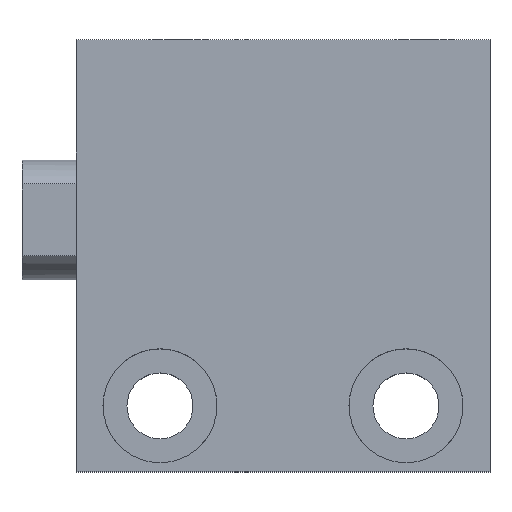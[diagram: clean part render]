
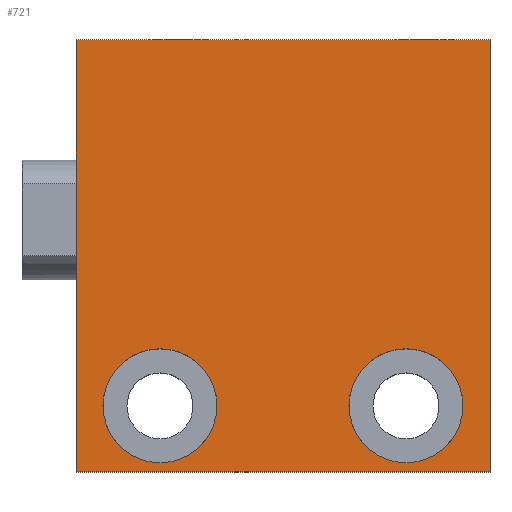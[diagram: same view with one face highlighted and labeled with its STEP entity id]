
A CAD part, top view. The second image highlights one B-rep face of the part: STEP entity #721.
In plain terms, the highlighted planar face has unit normal (0, 0, 1).
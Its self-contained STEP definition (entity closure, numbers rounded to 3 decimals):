
#28 = CARTESIAN_POINT ( 'NONE',  ( 34.5, -21., 12.5 ) ) ;
#34 = VECTOR ( 'NONE', #2348, 1000. ) ;
#39 = VECTOR ( 'NONE', #2307, 1000. ) ;
#55 = CARTESIAN_POINT ( 'NONE',  ( 7., -15.5, 12.5 ) ) ;
#100 = EDGE_CURVE ( 'NONE', #2664, #2727, #1143, .T. ) ;
#105 = CARTESIAN_POINT ( 'NONE',  ( 7., -15.5, 12.5 ) ) ;
#279 = LINE ( 'NONE', #28, #518 ) ;
#280 = DIRECTION ( 'NONE',  ( 1., 0., 0. ) ) ;
#388 = CARTESIAN_POINT ( 'NONE',  ( 32.25, -15.5, 12.5 ) ) ;
#407 = VERTEX_POINT ( 'NONE', #2985 ) ;
#415 = CARTESIAN_POINT ( 'NONE',  ( 34.5, 15., 12.5 ) ) ;
#518 = VECTOR ( 'NONE', #3056, 1000. ) ;
#521 = AXIS2_PLACEMENT_3D ( 'NONE', #2295, #1288, #2040 ) ;
#635 = AXIS2_PLACEMENT_3D ( 'NONE', #55, #794, #2318 ) ;
#673 = CIRCLE ( 'NONE', #2361, 4.75 ) ;
#693 = ORIENTED_EDGE ( 'NONE', *, *, #3120, .F. ) ;
#721 = ADVANCED_FACE ( 'NONE', ( #1057, #822, #1042 ), #1830, .T. ) ;
#741 = CARTESIAN_POINT ( 'NONE',  ( 0., -21., 12.5 ) ) ;
#794 = DIRECTION ( 'NONE',  ( 0., 0., 1. ) ) ;
#796 = ORIENTED_EDGE ( 'NONE', *, *, #1919, .F. ) ;
#822 = FACE_BOUND ( 'NONE', #3158, .T. ) ;
#899 = CARTESIAN_POINT ( 'NONE',  ( 34.5, -21., 12.5 ) ) ;
#913 = CARTESIAN_POINT ( 'NONE',  ( 11.75, -15.5, 12.5 ) ) ;
#981 = VECTOR ( 'NONE', #2766, 1000. ) ;
#985 = EDGE_CURVE ( 'NONE', #407, #2076, #2614, .T. ) ;
#989 = CARTESIAN_POINT ( 'NONE',  ( 2.25, -15.5, 12.5 ) ) ;
#1042 = FACE_BOUND ( 'NONE', #2146, .T. ) ;
#1057 = FACE_OUTER_BOUND ( 'NONE', #1941, .T. ) ;
#1071 = CARTESIAN_POINT ( 'NONE',  ( 27.5, -15.5, 12.5 ) ) ;
#1143 = LINE ( 'NONE', #1341, #34 ) ;
#1206 = ORIENTED_EDGE ( 'NONE', *, *, #2223, .F. ) ;
#1236 = EDGE_CURVE ( 'NONE', #1875, #1506, #2024, .T. ) ;
#1288 = DIRECTION ( 'NONE',  ( 0., 0., 1. ) ) ;
#1341 = CARTESIAN_POINT ( 'NONE',  ( 34.5, -21., 12.5 ) ) ;
#1392 = EDGE_CURVE ( 'NONE', #2076, #407, #1921, .T. ) ;
#1404 = ORIENTED_EDGE ( 'NONE', *, *, #1392, .F. ) ;
#1506 = VERTEX_POINT ( 'NONE', #1740 ) ;
#1550 = CARTESIAN_POINT ( 'NONE',  ( 34.5, 15., 12.5 ) ) ;
#1643 = CARTESIAN_POINT ( 'NONE',  ( 0., -21., 12.5 ) ) ;
#1651 = ORIENTED_EDGE ( 'NONE', *, *, #1236, .T. ) ;
#1740 = CARTESIAN_POINT ( 'NONE',  ( 0., 15., 12.5 ) ) ;
#1830 = PLANE ( 'NONE',  #521 ) ;
#1875 = VERTEX_POINT ( 'NONE', #415 ) ;
#1919 = EDGE_CURVE ( 'NONE', #2727, #1506, #2260, .T. ) ;
#1921 = CIRCLE ( 'NONE', #2125, 4.75 ) ;
#1931 = VERTEX_POINT ( 'NONE', #989 ) ;
#1941 = EDGE_LOOP ( 'NONE', ( #796, #2973, #3178, #1651 ) ) ;
#2024 = LINE ( 'NONE', #1550, #981 ) ;
#2040 = DIRECTION ( 'NONE',  ( 0., 1., 0. ) ) ;
#2076 = VERTEX_POINT ( 'NONE', #388 ) ;
#2092 = DIRECTION ( 'NONE',  ( 0., 0., 1. ) ) ;
#2096 = VERTEX_POINT ( 'NONE', #913 ) ;
#2125 = AXIS2_PLACEMENT_3D ( 'NONE', #1071, #2092, #2569 ) ;
#2146 = EDGE_LOOP ( 'NONE', ( #693, #1206 ) ) ;
#2153 = ORIENTED_EDGE ( 'NONE', *, *, #985, .F. ) ;
#2223 = EDGE_CURVE ( 'NONE', #1931, #2096, #673, .T. ) ;
#2260 = LINE ( 'NONE', #741, #39 ) ;
#2295 = CARTESIAN_POINT ( 'NONE',  ( 34.5, -21., 12.5 ) ) ;
#2307 = DIRECTION ( 'NONE',  ( 0., 1., 0. ) ) ;
#2318 = DIRECTION ( 'NONE',  ( 1., 0., 0. ) ) ;
#2334 = DIRECTION ( 'NONE',  ( 1., 0., 0. ) ) ;
#2348 = DIRECTION ( 'NONE',  ( -1., 0., 0. ) ) ;
#2361 = AXIS2_PLACEMENT_3D ( 'NONE', #105, #2605, #2334 ) ;
#2383 = EDGE_CURVE ( 'NONE', #2664, #1875, #279, .T. ) ;
#2510 = AXIS2_PLACEMENT_3D ( 'NONE', #3012, #2550, #280 ) ;
#2550 = DIRECTION ( 'NONE',  ( 0., 0., 1. ) ) ;
#2569 = DIRECTION ( 'NONE',  ( 1., 0., 0. ) ) ;
#2605 = DIRECTION ( 'NONE',  ( 0., 0., 1. ) ) ;
#2614 = CIRCLE ( 'NONE', #2510, 4.75 ) ;
#2664 = VERTEX_POINT ( 'NONE', #899 ) ;
#2727 = VERTEX_POINT ( 'NONE', #1643 ) ;
#2766 = DIRECTION ( 'NONE',  ( -1., 0., 0. ) ) ;
#2973 = ORIENTED_EDGE ( 'NONE', *, *, #100, .F. ) ;
#2985 = CARTESIAN_POINT ( 'NONE',  ( 22.75, -15.5, 12.5 ) ) ;
#3012 = CARTESIAN_POINT ( 'NONE',  ( 27.5, -15.5, 12.5 ) ) ;
#3056 = DIRECTION ( 'NONE',  ( 0., 1., 0. ) ) ;
#3105 = CIRCLE ( 'NONE', #635, 4.75 ) ;
#3120 = EDGE_CURVE ( 'NONE', #2096, #1931, #3105, .T. ) ;
#3158 = EDGE_LOOP ( 'NONE', ( #1404, #2153 ) ) ;
#3178 = ORIENTED_EDGE ( 'NONE', *, *, #2383, .T. ) ;
